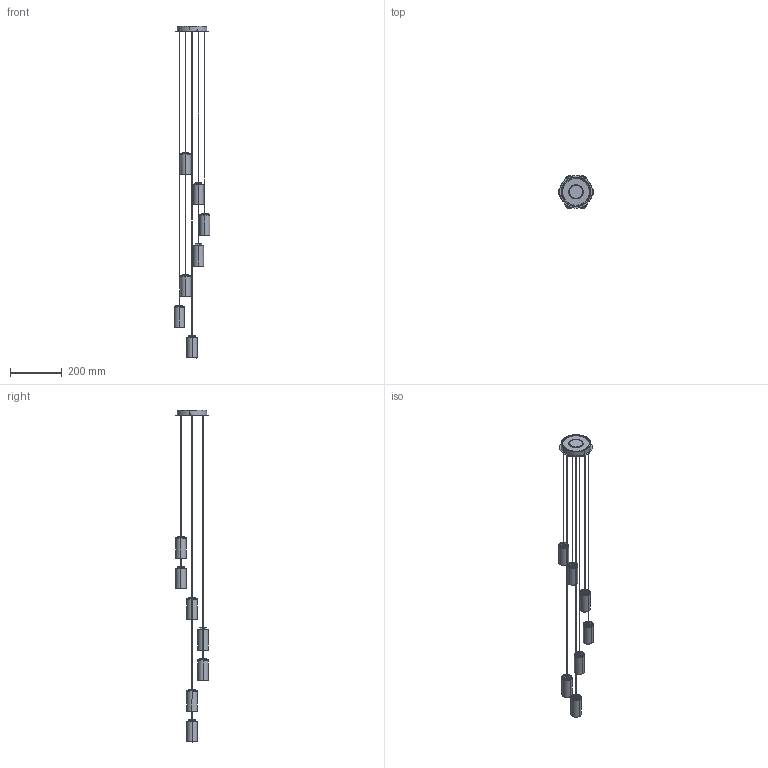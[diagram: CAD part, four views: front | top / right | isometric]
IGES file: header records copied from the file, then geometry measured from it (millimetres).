
Global section: file name: Cirio Cascada7 - tirabuzon; native system: Unknown; preprocessor: BodyObjectToATFToIges; author: Autodesk 3ds Max; organization: Autodesk; date: 20180131.093547; units: centimetre
Bounding box: 138.19 x 125.98 x 1281.38 mm (x, y, z)
Volume: 123906.5 mm3; surface area: 252565.1 mm2
Topology: 1 solids, 1 shells, 2228 faces, 6067 edges, 4018 vertices
Faces by surface type: bspline 2228
